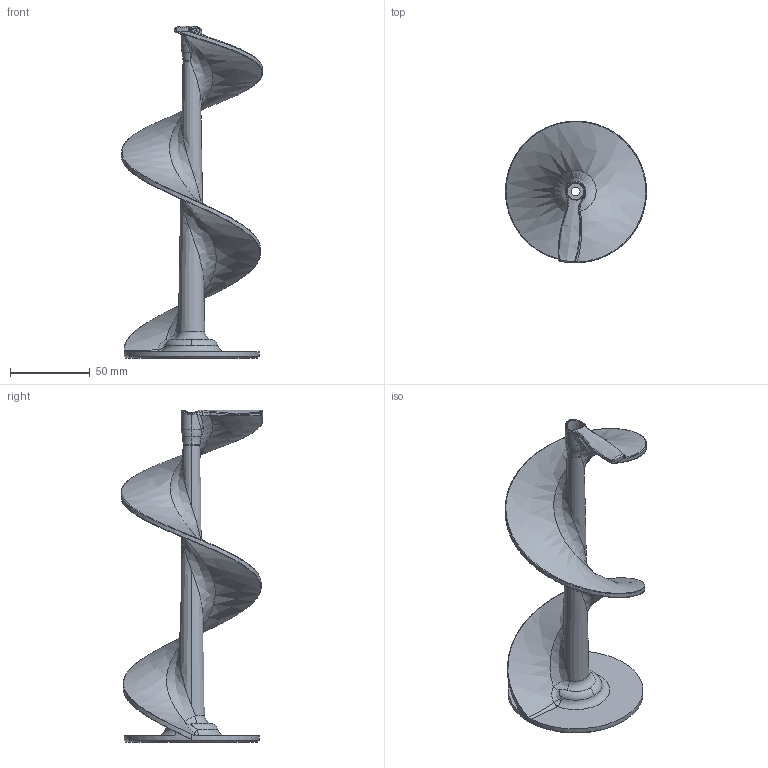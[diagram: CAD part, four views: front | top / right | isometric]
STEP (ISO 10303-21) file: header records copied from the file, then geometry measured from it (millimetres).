
FILE_DESCRIPTION (( 'STEP AP214' ), '1' );
FILE_NAME ('P-00112 - auger - v2.2.7_V2.2.4 Default.STEP', '2026-06-12T21:50:27', ( '' ), ( '' ), 'SwSTEP 2.0', 'SolidWorks 2023', '' );
FILE_SCHEMA (( 'AUTOMOTIVE_DESIGN' ));
Length unit declared in the file: inch
Products named in the file (1): P-00112 - auger - v2.2.7_V2.2.4 Default
Bounding box: 88.23 x 88.72 x 207.72 mm (x, y, z)
Volume: 114200.1 mm3; surface area: 50961.2 mm2
Topology: 1 solids, 1 shells, 134 faces, 330 edges, 193 vertices
Faces by surface type: bspline 67, cone 32, plane 16, torus 12, cylinder 7
Entity records: 17204 total; most frequent: CARTESIAN_POINT 14627, ORIENTED_EDGE 646, DIRECTION 372, EDGE_CURVE 323, VERTEX_POINT 193, B_SPLINE_CURVE_WITH_KNOTS 163, AXIS2_PLACEMENT_3D 160, EDGE_LOOP 138
